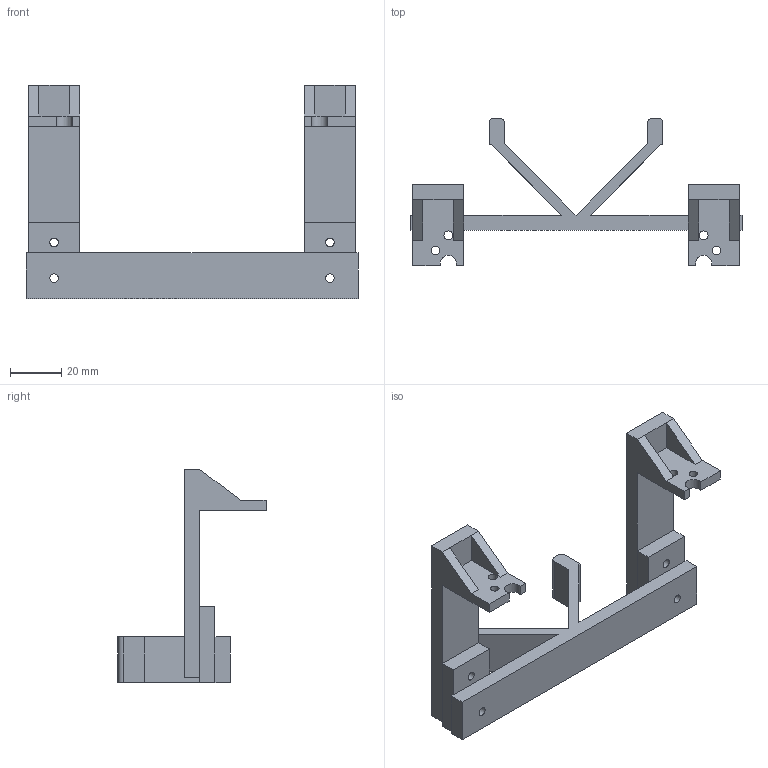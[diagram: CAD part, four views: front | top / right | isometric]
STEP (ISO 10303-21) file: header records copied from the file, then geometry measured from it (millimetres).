
FILE_DESCRIPTION(('FreeCAD Model'),'2;1');
FILE_NAME('Open CASCADE Shape Model','2026-11-02T14:05:23',('FreeCAD'),( 'FreeCAD'),'Open CASCADE STEP processor 7.8','FreeCAD','Unknown');
FILE_SCHEMA(('AUTOMOTIVE_DESIGN { 1 0 10303 214 1 1 1 1 }'));
Length unit declared in the file: millimetre
Products named in the file (1): Open CASCADE STEP translator 7.8 1
Bounding box: 130 x 58 x 83.5 mm (x, y, z)
Volume: 52948.3 mm3; surface area: 25797.6 mm2
Topology: 3 solids, 3 shells, 91 faces, 259 edges, 174 vertices
Faces by surface type: plane 69, cylinder 22
Full cylindrical faces by diameter (mm): 3.4 x8
Entity records: 3015 total; most frequent: CARTESIAN_POINT 525, ORIENTED_EDGE 518, DIRECTION 499, EDGE_CURVE 259, LINE 203, VECTOR 203, VERTEX_POINT 174, AXIS2_PLACEMENT_3D 148
